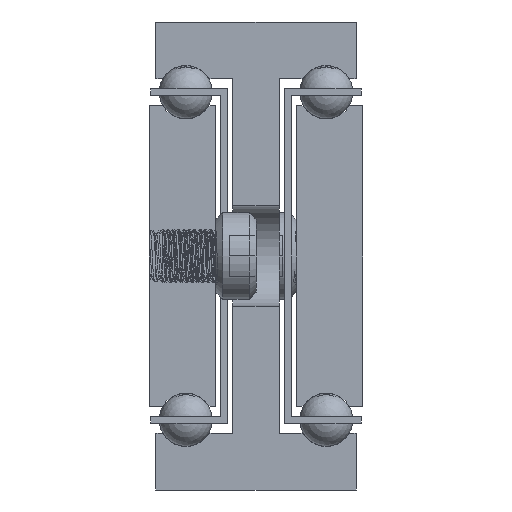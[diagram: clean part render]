
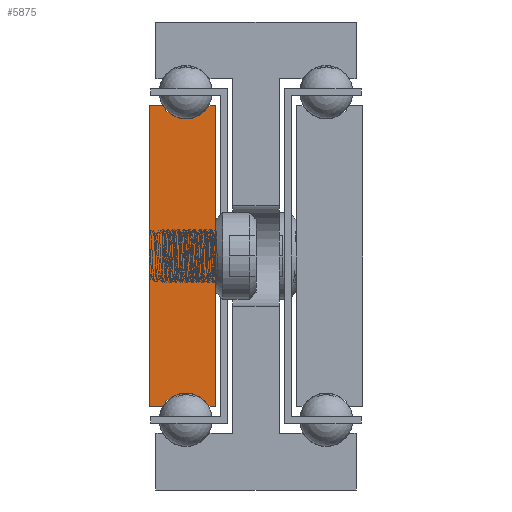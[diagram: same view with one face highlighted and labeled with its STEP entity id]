
A CAD part, front view. The second image highlights one B-rep face of the part: STEP entity #5875.
In plain terms, the highlighted planar face has unit normal (0, -1, 0).
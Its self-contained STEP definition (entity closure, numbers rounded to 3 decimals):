
#917=CIRCLE('',#6299,4.);
#919=CIRCLE('',#6305,4.);
#1369=FACE_OUTER_BOUND('',#1749,.T.);
#1749=EDGE_LOOP('',(#4646,#4647,#4648,#4649,#4650,#4651,#4652,#4653));
#2328=LINE('',#96521,#2540);
#2331=LINE('',#96527,#2543);
#2335=LINE('',#96539,#2547);
#2338=LINE('',#96545,#2550);
#2341=LINE('',#96551,#2553);
#2345=LINE('',#96561,#2557);
#2540=VECTOR('',#7018,1.);
#2543=VECTOR('',#7023,1.);
#2547=VECTOR('',#7035,1.);
#2550=VECTOR('',#7040,1.);
#2553=VECTOR('',#7045,1.);
#2557=VECTOR('',#7057,1.);
#2840=VERTEX_POINT('',#96518);
#2841=VERTEX_POINT('',#96520);
#2843=VERTEX_POINT('',#96526);
#2845=VERTEX_POINT('',#96532);
#2847=VERTEX_POINT('',#96538);
#2849=VERTEX_POINT('',#96544);
#2851=VERTEX_POINT('',#96550);
#2853=VERTEX_POINT('',#96556);
#3582=EDGE_CURVE('',#2841,#2840,#2328,.T.);
#3585=EDGE_CURVE('',#2843,#2841,#2331,.T.);
#3588=EDGE_CURVE('',#2845,#2843,#917,.T.);
#3591=EDGE_CURVE('',#2847,#2845,#2335,.T.);
#3594=EDGE_CURVE('',#2849,#2847,#2338,.T.);
#3597=EDGE_CURVE('',#2851,#2849,#2341,.T.);
#3600=EDGE_CURVE('',#2853,#2851,#919,.T.);
#3603=EDGE_CURVE('',#2840,#2853,#2345,.T.);
#4646=ORIENTED_EDGE('',*,*,#3603,.T.);
#4647=ORIENTED_EDGE('',*,*,#3600,.T.);
#4648=ORIENTED_EDGE('',*,*,#3597,.T.);
#4649=ORIENTED_EDGE('',*,*,#3594,.T.);
#4650=ORIENTED_EDGE('',*,*,#3591,.T.);
#4651=ORIENTED_EDGE('',*,*,#3588,.T.);
#4652=ORIENTED_EDGE('',*,*,#3585,.T.);
#4653=ORIENTED_EDGE('',*,*,#3582,.T.);
#5729=PLANE('',#6308);
#5875=ADVANCED_FACE('',(#1369),#5729,.T.);
#6299=AXIS2_PLACEMENT_3D('',#96533,#7029,#7030);
#6305=AXIS2_PLACEMENT_3D('',#96557,#7051,#7052);
#6308=AXIS2_PLACEMENT_3D('',#96563,#7060,#7061);
#7018=DIRECTION('',(0.,0.,-1.));
#7023=DIRECTION('',(-1.,0.,0.));
#7029=DIRECTION('center_axis',(0.,1.,0.));
#7030=DIRECTION('ref_axis',(-0.866,0.,-0.5));
#7035=DIRECTION('',(-1.,0.,0.));
#7040=DIRECTION('',(0.,0.,1.));
#7045=DIRECTION('',(1.,0.,0.));
#7051=DIRECTION('center_axis',(0.,1.,0.));
#7052=DIRECTION('ref_axis',(0.866,0.,0.5));
#7057=DIRECTION('',(1.,0.,0.));
#7060=DIRECTION('center_axis',(0.,-1.,0.));
#7061=DIRECTION('ref_axis',(1.,0.,0.));
#96518=CARTESIAN_POINT('',(-1489.782,-991.855,-57.5));
#96520=CARTESIAN_POINT('',(-1489.782,-991.855,-12.5));
#96521=CARTESIAN_POINT('',(-1489.782,-991.855,-57.5));
#96526=CARTESIAN_POINT('',(-1487.746,-991.855,-12.5));
#96527=CARTESIAN_POINT('',(-1489.782,-991.855,-12.5));
#96532=CARTESIAN_POINT('',(-1480.818,-991.855,-12.5));
#96533=CARTESIAN_POINT('Origin',(-1484.282,-991.855,-10.5));
#96538=CARTESIAN_POINT('',(-1479.782,-991.855,-12.5));
#96539=CARTESIAN_POINT('',(-1480.818,-991.855,-12.5));
#96544=CARTESIAN_POINT('',(-1479.782,-991.855,-57.5));
#96545=CARTESIAN_POINT('',(-1479.782,-991.855,-12.5));
#96550=CARTESIAN_POINT('',(-1480.818,-991.855,-57.5));
#96551=CARTESIAN_POINT('',(-1479.782,-991.855,-57.5));
#96556=CARTESIAN_POINT('',(-1487.746,-991.855,-57.5));
#96557=CARTESIAN_POINT('Origin',(-1484.282,-991.855,-59.5));
#96561=CARTESIAN_POINT('',(-1487.746,-991.855,-57.5));
#96563=CARTESIAN_POINT('Origin',(-1484.788,-991.855,-35.));
